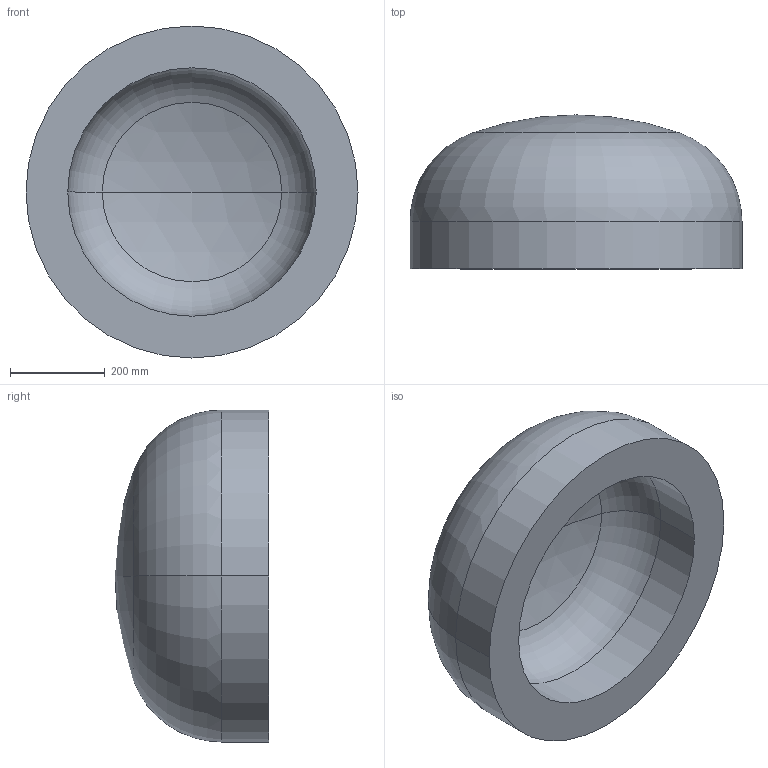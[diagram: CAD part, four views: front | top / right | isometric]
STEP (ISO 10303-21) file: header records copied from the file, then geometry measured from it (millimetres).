
FILE_DESCRIPTION (( 'STEP AP203' ), '1' );
FILE_NAME ('DIN 28013 Korbbogenform_-_Boden DIN 28013 - 700 x 100 - I - s=88.step', '2016-07-01T08:11:15', ( '' ), ( '' ), 'SwSTEP 2.0', 'SolidWorks 2013', '' );
FILE_SCHEMA (( 'CONFIG_CONTROL_DESIGN' ));
Length unit declared in the file: millimetre
Products named in the file (1): DIN 28013 Korbbogenform_-_Boden DIN 28013 - 700 x 100 - I - s=88
Bounding box: 700 x 324.45 x 700 mm (x, y, z)
Volume: 57345041.2 mm3; surface area: 1488708.9 mm2
Topology: 1 solids, 1 shells, 13 faces, 24 edges, 14 vertices
Faces by surface type: torus 4, cylinder 4, sphere 4, plane 1
Entity records: 407 total; most frequent: DIRECTION 72, CARTESIAN_POINT 52, ORIENTED_EDGE 48, AXIS2_PLACEMENT_3D 34, EDGE_CURVE 24, CIRCLE 20, EDGE_LOOP 14, VERTEX_POINT 14
